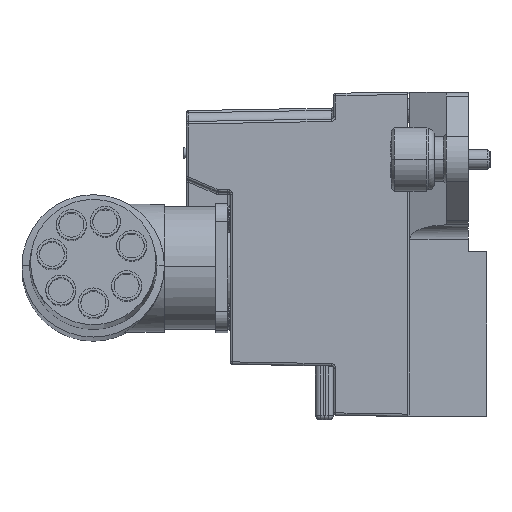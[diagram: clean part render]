
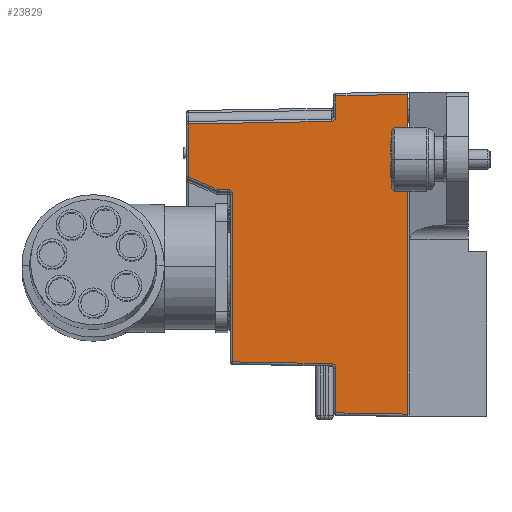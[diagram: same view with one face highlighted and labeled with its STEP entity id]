
A CAD part, left-side view. The second image highlights one B-rep face of the part: STEP entity #23829.
In plain terms, the highlighted planar face has unit normal (-1, 0.018, 0).
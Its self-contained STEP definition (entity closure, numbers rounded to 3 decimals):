
#11517=CARTESIAN_POINT('',(-109.,-22.,0.5));
#11523=DIRECTION('',(0.,0.,1.));
#11524=VECTOR('',#11523,65.);
#11525=CARTESIAN_POINT('',(-109.,-22.,0.5));
#11526=LINE('',#11525,#11524);
#11531=CARTESIAN_POINT('',(-109.,-22.,65.5));
#13699=CARTESIAN_POINT('',(-108.38,13.509,
45.137));
#13700=CARTESIAN_POINT('',(-108.38,13.509,
45.269));
#13701=CARTESIAN_POINT('',(-108.379,13.557,
45.515));
#13702=CARTESIAN_POINT('',(-108.376,13.773,
45.854));
#13703=CARTESIAN_POINT('',(-108.37,14.104,
46.078));
#13704=CARTESIAN_POINT('',(-108.365,14.354,
46.134));
#13705=CARTESIAN_POINT('',(-108.363,14.491,
46.137));
#13707=DIRECTION('',(-0.017,-1.,-0.017));
#13708=VECTOR('',#13707,1.997);
#13709=CARTESIAN_POINT('',(-108.328,16.487,
46.172));
#13710=LINE('',#13709,#13708);
#13711=DIRECTION('',(-0.016,-0.92,-0.391));
#13712=VECTOR('',#13711,6.543);
#13713=CARTESIAN_POINT('',(-108.223,22.509,
48.731));
#13714=LINE('',#13713,#13712);
#13715=DIRECTION('',(0.,0.,1.));
#13716=VECTOR('',#13715,10.772);
#13717=CARTESIAN_POINT('',(-108.223,22.509,
48.731));
#13718=LINE('',#13717,#13716);
#13719=DIRECTION('',(0.017,1.,-0.017));
#13720=VECTOR('',#13719,29.026);
#13721=CARTESIAN_POINT('',(-108.73,-6.509,
60.01));
#13722=LINE('',#13721,#13720);
#13723=CARTESIAN_POINT('',(-108.747,-7.491,
61.01));
#13724=CARTESIAN_POINT('',(-108.747,-7.491,
60.874));
#13725=CARTESIAN_POINT('',(-108.746,-7.44,
60.625));
#13726=CARTESIAN_POINT('',(-108.742,-7.224,
60.29));
#13727=CARTESIAN_POINT('',(-108.736,-6.89,
60.066));
#13728=CARTESIAN_POINT('',(-108.732,-6.643,
60.012));
#13729=CARTESIAN_POINT('',(-108.73,-6.509,
60.01));
#13731=DIRECTION('',(0.,0.,-1.));
#13732=VECTOR('',#13731,4.237);
#13733=CARTESIAN_POINT('',(-108.747,-7.491,
65.247));
#13734=LINE('',#13733,#13732);
#13735=DIRECTION('',(-0.017,-1.,0.017));
#13736=VECTOR('',#13735,14.513);
#13737=CARTESIAN_POINT('',(-108.747,-7.491,
65.247));
#13738=LINE('',#13737,#13736);
#13739=DIRECTION('',(0.017,1.,0.017));
#13740=VECTOR('',#13739,14.513);
#13741=CARTESIAN_POINT('',(-109.,-22.,0.5));
#13742=LINE('',#13741,#13740);
#13743=DIRECTION('',(0.,0.,-1.));
#13744=VECTOR('',#13743,9.017);
#13745=CARTESIAN_POINT('',(-108.747,-7.491,
9.77));
#13746=LINE('',#13745,#13744);
#13747=CARTESIAN_POINT('',(-108.73,-6.509,
10.77));
#13748=CARTESIAN_POINT('',(-108.731,-6.585,
10.769));
#13749=CARTESIAN_POINT('',(-108.733,-6.726,
10.75));
#13750=CARTESIAN_POINT('',(-108.737,-6.909,
10.685));
#13751=CARTESIAN_POINT('',(-108.739,-7.06,
10.598));
#13752=CARTESIAN_POINT('',(-108.741,-7.179,
10.501));
#13753=CARTESIAN_POINT('',(-108.743,-7.273,
10.399));
#13754=CARTESIAN_POINT('',(-108.744,-7.347,
10.292));
#13755=CARTESIAN_POINT('',(-108.745,-7.406,
10.181));
#13756=CARTESIAN_POINT('',(-108.746,-7.451,
10.06));
#13757=CARTESIAN_POINT('',(-108.747,-7.483,
9.926));
#13758=CARTESIAN_POINT('',(-108.747,-7.491,
9.824));
#13759=CARTESIAN_POINT('',(-108.747,-7.491,
9.77));
#13761=DIRECTION('',(-0.017,-1.,-0.017));
#13762=VECTOR('',#13761,20.024);
#13763=CARTESIAN_POINT('',(-108.38,13.509,
11.12));
#13764=LINE('',#13763,#13762);
#13765=DIRECTION('',(0.,0.,1.));
#13766=VECTOR('',#13765,34.017);
#13767=CARTESIAN_POINT('',(-108.38,13.509,
11.12));
#13768=LINE('',#13767,#13766);
#17409=CARTESIAN_POINT('',(-108.38,13.509,
11.12));
#17410=CARTESIAN_POINT('',(-108.38,13.509,
45.137));
#17411=VERTEX_POINT('',#17409);
#17412=VERTEX_POINT('',#17410);
#17437=CARTESIAN_POINT('',(-108.223,22.509,
48.731));
#17438=CARTESIAN_POINT('',(-108.223,22.509,
59.503));
#17439=VERTEX_POINT('',#17437);
#17440=VERTEX_POINT('',#17438);
#17489=CARTESIAN_POINT('',(-108.73,-6.509,
60.01));
#17490=VERTEX_POINT('',#17489);
#17525=CARTESIAN_POINT('',(-108.328,16.487,
46.172));
#17526=CARTESIAN_POINT('',(-108.363,14.491,
46.137));
#17527=VERTEX_POINT('',#17525);
#17528=VERTEX_POINT('',#17526);
#17530=VERTEX_POINT('',#11531);
#17533=CARTESIAN_POINT('',(-108.747,-7.491,
65.247));
#17534=VERTEX_POINT('',#17533);
#18018=VERTEX_POINT('',#13723);
#18076=VERTEX_POINT('',#11517);
#18078=VERTEX_POINT('',#13747);
#18079=VERTEX_POINT('',#13759);
#18086=CARTESIAN_POINT('',(-108.747,-7.491,
0.753));
#18087=VERTEX_POINT('',#18086);
#23798=CARTESIAN_POINT('',(-109.,-22.,-2.938));
#23799=DIRECTION('',(-1.,0.017,0.));
#23800=DIRECTION('',(0.,0.,-1.));
#23801=AXIS2_PLACEMENT_3D('',#23798,#23799,#23800);
#23802=PLANE('',#23801);
#23804=ORIENTED_EDGE('',*,*,#23803,.T.);
#23806=ORIENTED_EDGE('',*,*,#23805,.F.);
#23807=ORIENTED_EDGE('',*,*,#23779,.F.);
#23808=ORIENTED_EDGE('',*,*,#22966,.T.);
#23809=ORIENTED_EDGE('',*,*,#22996,.F.);
#23811=ORIENTED_EDGE('',*,*,#23810,.F.);
#23813=ORIENTED_EDGE('',*,*,#23812,.F.);
#23815=ORIENTED_EDGE('',*,*,#23814,.T.);
#23816=ORIENTED_EDGE('',*,*,#19378,.F.);
#23818=ORIENTED_EDGE('',*,*,#23817,.T.);
#23820=ORIENTED_EDGE('',*,*,#23819,.F.);
#23822=ORIENTED_EDGE('',*,*,#23821,.F.);
#23824=ORIENTED_EDGE('',*,*,#23823,.F.);
#23826=ORIENTED_EDGE('',*,*,#23825,.T.);
#23827=EDGE_LOOP('',(#23804,#23806,#23807,#23808,#23809,#23811,#23813,#23815,
#23816,#23818,#23820,#23822,#23824,#23826));
#23828=FACE_OUTER_BOUND('',#23827,.F.);
#23829=ADVANCED_FACE('',(#23828),#23802,.T.);
#13706=B_SPLINE_CURVE_WITH_KNOTS('',3,(#13699,#13700,#13701,#13702,#13703,
#13704,#13705),.UNSPECIFIED.,.F.,.F.,(4,1,1,1,4),(0.,0.25,0.5,0.75,
1.),.UNSPECIFIED.);
#13730=B_SPLINE_CURVE_WITH_KNOTS('',3,(#13723,#13724,#13725,#13726,#13727,
#13728,#13729),.UNSPECIFIED.,.F.,.F.,(4,1,1,1,4),(0.,0.25,0.5,0.75,
1.),.UNSPECIFIED.);
#13760=B_SPLINE_CURVE_WITH_KNOTS('',3,(#13747,#13748,#13749,#13750,#13751,
#13752,#13753,#13754,#13755,#13756,#13757,#13758,#13759),.UNSPECIFIED.,.F.,.F.,(
4,1,1,1,1,1,1,1,1,1,4),(0.,0.1,0.2,0.3,0.4,0.5,0.6,0.7,0.8,
0.9,1.),.UNSPECIFIED.);
#19378=EDGE_CURVE('',#18076,#17530,#11526,.T.);
#22966=EDGE_CURVE('',#17439,#17440,#13718,.T.);
#22996=EDGE_CURVE('',#17490,#17440,#13722,.T.);
#23779=EDGE_CURVE('',#17439,#17527,#13714,.T.);
#23803=EDGE_CURVE('',#17412,#17528,#13706,.T.);
#23805=EDGE_CURVE('',#17527,#17528,#13710,.T.);
#23810=EDGE_CURVE('',#18018,#17490,#13730,.T.);
#23812=EDGE_CURVE('',#17534,#18018,#13734,.T.);
#23814=EDGE_CURVE('',#17534,#17530,#13738,.T.);
#23817=EDGE_CURVE('',#18076,#18087,#13742,.T.);
#23819=EDGE_CURVE('',#18079,#18087,#13746,.T.);
#23821=EDGE_CURVE('',#18078,#18079,#13760,.T.);
#23823=EDGE_CURVE('',#17411,#18078,#13764,.T.);
#23825=EDGE_CURVE('',#17411,#17412,#13768,.T.);
